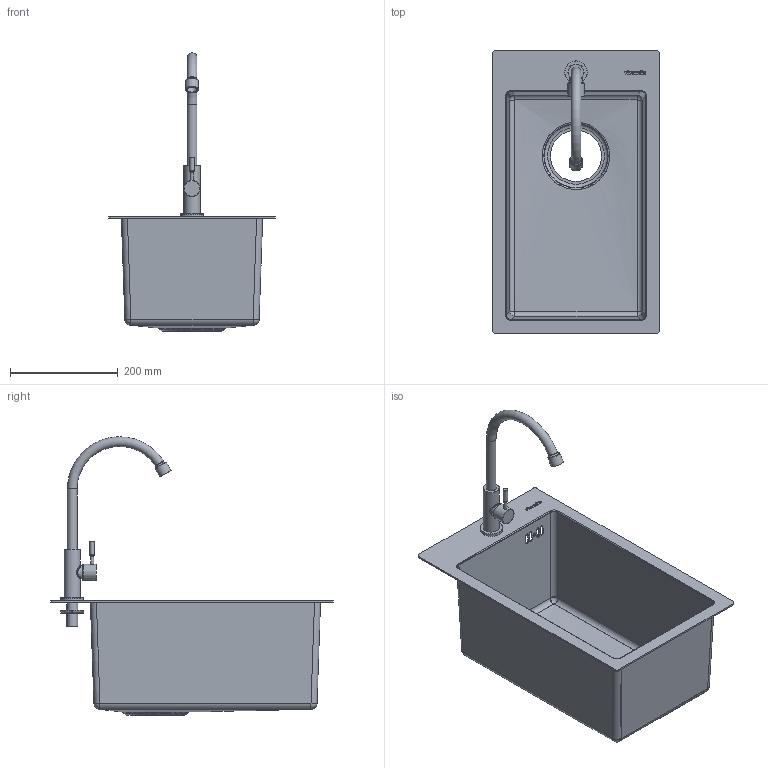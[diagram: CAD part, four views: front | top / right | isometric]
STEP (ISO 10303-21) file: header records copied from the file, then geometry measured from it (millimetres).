
FILE_DESCRIPTION(/* description */ ('Sink MB with cold water faucet'),/* implementation_level */ '2;1');
FILE_NAME(/* name */ 'SA3-MBk.0.step',/* time_stamp */ '2026-02-25T16:03:24+01:00',/* author */ (''),/* organization */ (''),/* preprocessor_version */ 'ST-DEVELOPER v20.1',/* originating_system */ 'Autodesk Translation Framework v14.24.0.0',/* authorisation */ '');
FILE_SCHEMA (('AUTOMOTIVE_DESIGN { 1 0 10303 214 3 1 1 }'));
Length unit declared in the file: millimetre
Products named in the file (3): SA3-MBk.0; SA3-MB; SA3-k
Assembly tree (2 placements, depth 2):
  SA3-MBk.0
    SA3-MB
    SA3-k
Bounding box: 310 x 525 x 517.13 mm (x, y, z)
Volume: 854995.6 mm3; surface area: 865196.2 mm2
Topology: 4 solids, 4 shells, 276 faces, 755 edges, 502 vertices
Faces by surface type: bspline 88, cylinder 68, plane 66, torus 37, sphere 14, cone 3
Full cylindrical faces by diameter (mm): 6 x2, 8 x1, 17.6 x1, 18 x1, 20 x1, 21 x1, 24 x2, 30 x2, 36 x1, 42 x1, 95 x1
Entity records: 22182 total; most frequent: CARTESIAN_POINT 15567, ORIENTED_EDGE 1496, DIRECTION 1152, EDGE_CURVE 748, VERTEX_POINT 502, AXIS2_PLACEMENT_3D 475, EDGE_LOOP 316, CIRCLE 280
